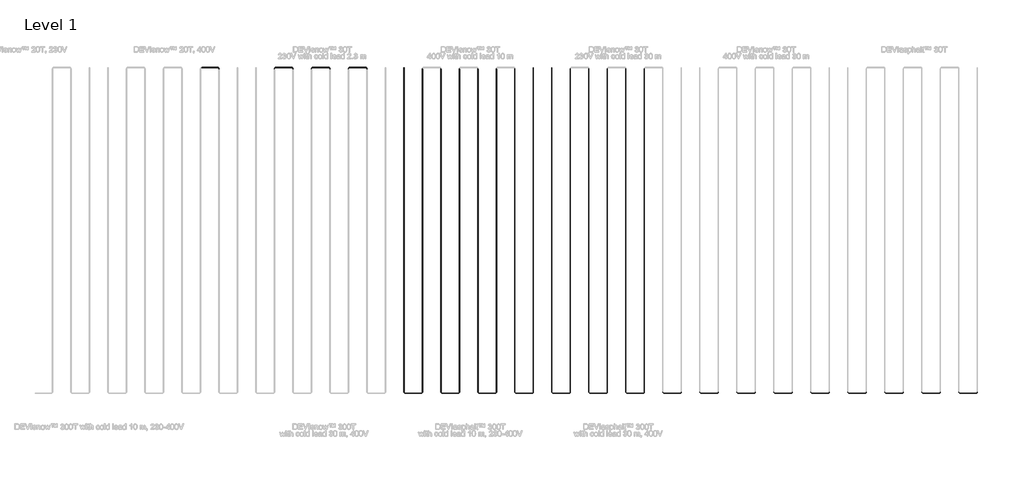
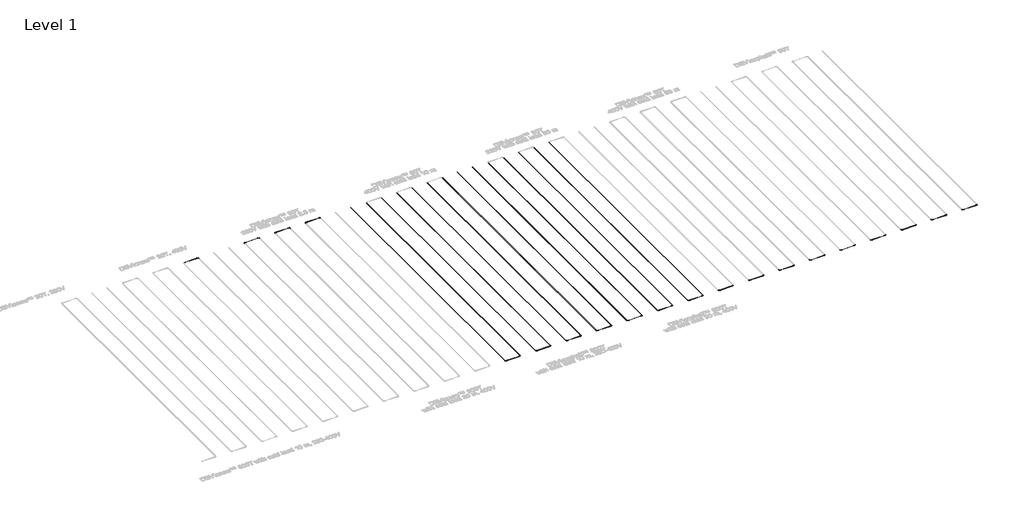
# One storey, part 6 of 26: 39 cable carrier fittings, 34 cable carrier segments.
"""IFC4 building model written with IfcOpenShell, lengths in millimetres."""

from ifc_helpers import new_model, si_unit, point, frame, frame_2d, origin, place, context, project, spatial, circle_curve, trimmed, segment, composite_curve, outline, extrude, transform, mapped, element, save
from components import cable_carrier_fitting_e4b1aeb6

model = new_model("IFC4")

# Units and contexts
model_context = context("Model", 3, world=origin())
ifc_project = project(units=[si_unit("LENGTHUNIT", "METRE", prefix="MILLI")], contexts=[model_context])

# Site, building, storey
site = spatial("IfcSite", under=ifc_project)
building = spatial("IfcBuilding", under=site)
storey = spatial("IfcBuildingStorey", under=building, Name="Level 1", Elevation=0.0)

# Cable carrier fittings
placement = place(None, origin())
cable_carrier_fitting_shape = cable_carrier_fitting_e4b1aeb6(model_context)
element("IfcCableCarrierFitting", 1, ObjectType="Danfoss Elbow : DEVIsnow™ 20T, 400V", at=placement, inside=storey, context=model_context, shape_type="MappedRepresentation", body=[
    mapped(cable_carrier_fitting_shape, transform((11412.6597555, -17938.7894079, -100.0), x_axis=(0.0, 1.0, 0.0), y_axis=(-1.0, 0.0, 0.0), z_axis=(0.0, 0.0, 1.0))),
])
element("IfcCableCarrierFitting", 2, ObjectType="Danfoss Elbow : DEVIsnow™ 30T, 230V with cold lead 2.3 m", at=placement, inside=storey, context=model_context, shape_type="MappedRepresentation", body=[
    mapped(cable_carrier_fitting_shape, transform((12912.6597555, -17938.7894079, -100.0), x_axis=(-1.0, 0.0, 0.0), y_axis=(0.0, -1.0, 0.0), z_axis=(0.0, 0.0, 1.0))),
])
element("IfcCableCarrierFitting", 3, ObjectType="Danfoss Elbow : DEVIsnow™ 30T, 230V with cold lead 2.3 m", at=placement, inside=storey, context=model_context, shape_type="MappedRepresentation", body=[
    mapped(cable_carrier_fitting_shape, transform((13412.6597555, -17938.7894079, -100.0), x_axis=(0.0, 1.0, 0.0), y_axis=(-1.0, 0.0, 0.0), z_axis=(0.0, 0.0, 1.0))),
])
element("IfcCableCarrierFitting", 4, ObjectType="Danfoss Elbow : DEVIsnow™ 30T, 230V with cold lead 2.3 m", at=placement, inside=storey, context=model_context, shape_type="MappedRepresentation", body=[
    mapped(cable_carrier_fitting_shape, transform((13912.6597555, -17938.7894079, -100.0), x_axis=(-1.0, 0.0, 0.0), y_axis=(0.0, -1.0, 0.0), z_axis=(0.0, 0.0, 1.0))),
])
element("IfcCableCarrierFitting", 5, ObjectType="Danfoss Elbow : DEVIsnow™ 30T, 230V with cold lead 2.3 m", at=placement, inside=storey, context=model_context, shape_type="MappedRepresentation", body=[
    mapped(cable_carrier_fitting_shape, transform((14412.6597555, -17938.7894079, -100.0), x_axis=(0.0, 1.0, 0.0), y_axis=(-1.0, 0.0, 0.0), z_axis=(0.0, 0.0, 1.0))),
])
element("IfcCableCarrierFitting", 6, ObjectType="Danfoss Elbow : DEVIsnow™ 30T, 230V with cold lead 2.3 m", at=placement, inside=storey, context=model_context, shape_type="MappedRepresentation", body=[
    mapped(cable_carrier_fitting_shape, transform((14912.6597555, -17938.7894079, -100.0), x_axis=(-1.0, 0.0, 0.0), y_axis=(0.0, -1.0, 0.0), z_axis=(0.0, 0.0, 1.0))),
])
element("IfcCableCarrierFitting", 7, ObjectType="Danfoss Elbow : DEVIsnow™ 30T, 230V with cold lead 2.3 m", at=placement, inside=storey, context=model_context, shape_type="MappedRepresentation", body=[
    mapped(cable_carrier_fitting_shape, transform((15412.6597555, -17938.7894079, -100.0), x_axis=(0.0, 1.0, 0.0), y_axis=(-1.0, 0.0, 0.0), z_axis=(0.0, 0.0, 1.0))),
])
element("IfcCableCarrierFitting", 8, ObjectType="Danfoss Elbow : DEVIsnow™ 30T, 400V with cold lead 10 m", at=placement, inside=storey, context=model_context, shape_type="MappedRepresentation", body=[
    mapped(cable_carrier_fitting_shape, transform((16412.6597555, -26738.7894079, -100.0), x_axis=(0.0, -1.0, 0.0), y_axis=(1.0, 0.0, 0.0), z_axis=(0.0, 0.0, 1.0))),
])
element("IfcCableCarrierFitting", 9, ObjectType="Danfoss Elbow : DEVIsnow™ 30T, 400V with cold lead 10 m", at=placement, inside=storey, context=model_context, shape_type="MappedRepresentation", body=[
    mapped(cable_carrier_fitting_shape, transform((16912.6597555, -26738.7894079, -100.0), x_axis=(1.0, 0.0, 0.0), y_axis=(0.0, 1.0, 0.0), z_axis=(0.0, 0.0, 1.0))),
])
element("IfcCableCarrierFitting", 10, ObjectType="Danfoss Elbow : DEVIsnow™ 30T, 400V with cold lead 10 m", at=placement, inside=storey, context=model_context, shape_type="MappedRepresentation", body=[
    mapped(cable_carrier_fitting_shape, transform((17412.6597555, -26738.7894079, -100.0), x_axis=(0.0, -1.0, 0.0), y_axis=(1.0, 0.0, 0.0), z_axis=(0.0, 0.0, 1.0))),
])
element("IfcCableCarrierFitting", 11, ObjectType="Danfoss Elbow : DEVIsnow™ 30T, 400V with cold lead 10 m", at=placement, inside=storey, context=model_context, shape_type="MappedRepresentation", body=[
    mapped(cable_carrier_fitting_shape, transform((17912.6597555, -26738.7894079, -100.0), x_axis=(1.0, 0.0, 0.0), y_axis=(0.0, 1.0, 0.0), z_axis=(0.0, 0.0, 1.0))),
])
element("IfcCableCarrierFitting", 12, ObjectType="Danfoss Elbow : DEVIsnow™ 30T, 400V with cold lead 10 m", at=placement, inside=storey, context=model_context, shape_type="MappedRepresentation", body=[
    mapped(cable_carrier_fitting_shape, transform((18412.6597555, -26738.7894079, -100.0), x_axis=(0.0, -1.0, 0.0), y_axis=(1.0, 0.0, 0.0), z_axis=(0.0, 0.0, 1.0))),
])
element("IfcCableCarrierFitting", 13, ObjectType="Danfoss Elbow : DEVIsnow™ 30T, 400V with cold lead 10 m", at=placement, inside=storey, context=model_context, shape_type="MappedRepresentation", body=[
    mapped(cable_carrier_fitting_shape, transform((18912.6597555, -26738.7894079, -100.0), x_axis=(1.0, 0.0, 0.0), y_axis=(0.0, 1.0, 0.0), z_axis=(0.0, 0.0, 1.0))),
])
element("IfcCableCarrierFitting", 14, ObjectType="Danfoss Elbow : DEVIsnow™ 30T, 400V with cold lead 10 m", at=placement, inside=storey, context=model_context, shape_type="MappedRepresentation", body=[
    mapped(cable_carrier_fitting_shape, transform((19412.6597555, -26738.7894079, -100.0), x_axis=(0.0, -1.0, 0.0), y_axis=(1.0, 0.0, 0.0), z_axis=(0.0, 0.0, 1.0))),
])
element("IfcCableCarrierFitting", 15, ObjectType="Danfoss Elbow : DEVIsnow™ 30T, 400V with cold lead 10 m", at=placement, inside=storey, context=model_context, shape_type="MappedRepresentation", body=[
    mapped(cable_carrier_fitting_shape, transform((19912.6597555, -26738.7894079, -100.0), x_axis=(1.0, 0.0, 0.0), y_axis=(0.0, 1.0, 0.0), z_axis=(0.0, 0.0, 1.0))),
])
element("IfcCableCarrierFitting", 16, ObjectType="Danfoss Elbow : DEVIsnow™ 30T, 230V with cold lead 30 m", at=placement, inside=storey, context=model_context, shape_type="MappedRepresentation", body=[
    mapped(cable_carrier_fitting_shape, transform((20412.6597555, -26738.7894079, -100.0), x_axis=(0.0, -1.0, 0.0), y_axis=(1.0, 0.0, 0.0), z_axis=(0.0, 0.0, 1.0))),
])
element("IfcCableCarrierFitting", 17, ObjectType="Danfoss Elbow : DEVIsnow™ 30T, 230V with cold lead 30 m", at=placement, inside=storey, context=model_context, shape_type="MappedRepresentation", body=[
    mapped(cable_carrier_fitting_shape, transform((20912.6597555, -26738.7894079, -100.0), x_axis=(1.0, 0.0, 0.0), y_axis=(0.0, 1.0, 0.0), z_axis=(0.0, 0.0, 1.0))),
])
element("IfcCableCarrierFitting", 18, ObjectType="Danfoss Elbow : DEVIsnow™ 30T, 230V with cold lead 30 m", at=placement, inside=storey, context=model_context, shape_type="MappedRepresentation", body=[
    mapped(cable_carrier_fitting_shape, transform((21412.6597555, -26738.7894079, -100.0), x_axis=(0.0, -1.0, 0.0), y_axis=(1.0, 0.0, 0.0), z_axis=(0.0, 0.0, 1.0))),
])
element("IfcCableCarrierFitting", 19, ObjectType="Danfoss Elbow : DEVIsnow™ 30T, 230V with cold lead 30 m", at=placement, inside=storey, context=model_context, shape_type="MappedRepresentation", body=[
    mapped(cable_carrier_fitting_shape, transform((21912.6597555, -26738.7894079, -100.0), x_axis=(1.0, 0.0, 0.0), y_axis=(0.0, 1.0, 0.0), z_axis=(0.0, 0.0, 1.0))),
])
element("IfcCableCarrierFitting", 20, ObjectType="Danfoss Elbow : DEVIsnow™ 30T, 230V with cold lead 30 m", at=placement, inside=storey, context=model_context, shape_type="MappedRepresentation", body=[
    mapped(cable_carrier_fitting_shape, transform((22412.6597555, -26738.7894079, -100.0), x_axis=(0.0, -1.0, 0.0), y_axis=(1.0, 0.0, 0.0), z_axis=(0.0, 0.0, 1.0))),
])
element("IfcCableCarrierFitting", 21, ObjectType="Danfoss Elbow : DEVIsnow™ 30T, 230V with cold lead 30 m", at=placement, inside=storey, context=model_context, shape_type="MappedRepresentation", body=[
    mapped(cable_carrier_fitting_shape, transform((22912.6597555, -26738.7894079, -100.0), x_axis=(1.0, 0.0, 0.0), y_axis=(0.0, 1.0, 0.0), z_axis=(0.0, 0.0, 1.0))),
])
element("IfcCableCarrierFitting", 22, ObjectType="Danfoss Elbow : DEVIsnow™ 30T, 230V with cold lead 30 m", at=placement, inside=storey, context=model_context, shape_type="MappedRepresentation", body=[
    mapped(cable_carrier_fitting_shape, transform((23412.6597555, -26738.7894079, -100.0), x_axis=(0.0, -1.0, 0.0), y_axis=(1.0, 0.0, 0.0), z_axis=(0.0, 0.0, 1.0))),
])
element("IfcCableCarrierFitting", 23, ObjectType="Danfoss Elbow : DEVIsnow™ 30T, 230V with cold lead 30 m", at=placement, inside=storey, context=model_context, shape_type="MappedRepresentation", body=[
    mapped(cable_carrier_fitting_shape, transform((23912.6597555, -26738.7894079, -100.0), x_axis=(1.0, 0.0, 0.0), y_axis=(0.0, 1.0, 0.0), z_axis=(0.0, 0.0, 1.0))),
])
element("IfcCableCarrierFitting", 24, ObjectType="Danfoss Elbow : DEVIsnow™ 30T, 400V with cold lead 30 m", at=placement, inside=storey, context=model_context, shape_type="MappedRepresentation", body=[
    mapped(cable_carrier_fitting_shape, transform((24412.6597555, -26738.7894079, -100.0), x_axis=(0.0, -1.0, 0.0), y_axis=(1.0, 0.0, 0.0), z_axis=(0.0, 0.0, 1.0))),
])
element("IfcCableCarrierFitting", 25, ObjectType="Danfoss Elbow : DEVIsnow™ 30T, 400V with cold lead 30 m", at=placement, inside=storey, context=model_context, shape_type="MappedRepresentation", body=[
    mapped(cable_carrier_fitting_shape, transform((24912.6597555, -26738.7894079, -100.0), x_axis=(1.0, 0.0, 0.0), y_axis=(0.0, 1.0, 0.0), z_axis=(0.0, 0.0, 1.0))),
])
element("IfcCableCarrierFitting", 26, ObjectType="Danfoss Elbow : DEVIsnow™ 30T, 400V with cold lead 30 m", at=placement, inside=storey, context=model_context, shape_type="MappedRepresentation", body=[
    mapped(cable_carrier_fitting_shape, transform((25412.6597555, -26738.7894079, -100.0), x_axis=(0.0, -1.0, 0.0), y_axis=(1.0, 0.0, 0.0), z_axis=(0.0, 0.0, 1.0))),
])
element("IfcCableCarrierFitting", 27, ObjectType="Danfoss Elbow : DEVIsnow™ 30T, 400V with cold lead 30 m", at=placement, inside=storey, context=model_context, shape_type="MappedRepresentation", body=[
    mapped(cable_carrier_fitting_shape, transform((25912.6597555, -26738.7894079, -100.0), x_axis=(1.0, 0.0, 0.0), y_axis=(0.0, 1.0, 0.0), z_axis=(0.0, 0.0, 1.0))),
])
element("IfcCableCarrierFitting", 28, ObjectType="Danfoss Elbow : DEVIsnow™ 30T, 400V with cold lead 30 m", at=placement, inside=storey, context=model_context, shape_type="MappedRepresentation", body=[
    mapped(cable_carrier_fitting_shape, transform((26412.6597555, -26738.7894079, -100.0), x_axis=(0.0, -1.0, 0.0), y_axis=(1.0, 0.0, 0.0), z_axis=(0.0, 0.0, 1.0))),
])
element("IfcCableCarrierFitting", 29, ObjectType="Danfoss Elbow : DEVIsnow™ 30T, 400V with cold lead 30 m", at=placement, inside=storey, context=model_context, shape_type="MappedRepresentation", body=[
    mapped(cable_carrier_fitting_shape, transform((26912.6597555, -26738.7894079, -100.0), x_axis=(1.0, 0.0, 0.0), y_axis=(0.0, 1.0, 0.0), z_axis=(0.0, 0.0, 1.0))),
])
element("IfcCableCarrierFitting", 30, ObjectType="Danfoss Elbow : DEVIsnow™ 30T, 400V with cold lead 30 m", at=placement, inside=storey, context=model_context, shape_type="MappedRepresentation", body=[
    mapped(cable_carrier_fitting_shape, transform((27412.6597555, -26738.7894079, -100.0), x_axis=(0.0, -1.0, 0.0), y_axis=(1.0, 0.0, 0.0), z_axis=(0.0, 0.0, 1.0))),
])
element("IfcCableCarrierFitting", 31, ObjectType="Danfoss Elbow : DEVIsnow™ 30T, 400V with cold lead 30 m", at=placement, inside=storey, context=model_context, shape_type="MappedRepresentation", body=[
    mapped(cable_carrier_fitting_shape, transform((27912.6597555, -26738.7894079, -100.0), x_axis=(1.0, 0.0, 0.0), y_axis=(0.0, 1.0, 0.0), z_axis=(0.0, 0.0, 1.0))),
])
element("IfcCableCarrierFitting", 32, ObjectType="Danfoss Elbow : DEVIasphalt™ 30T", at=placement, inside=storey, context=model_context, shape_type="MappedRepresentation", body=[
    mapped(cable_carrier_fitting_shape, transform((28412.6597555, -26738.7894079, -100.0), x_axis=(0.0, -1.0, 0.0), y_axis=(1.0, 0.0, 0.0), z_axis=(0.0, 0.0, 1.0))),
])
element("IfcCableCarrierFitting", 33, ObjectType="Danfoss Elbow : DEVIasphalt™ 30T", at=placement, inside=storey, context=model_context, shape_type="MappedRepresentation", body=[
    mapped(cable_carrier_fitting_shape, transform((28912.6597555, -26738.7894079, -100.0), x_axis=(1.0, 0.0, 0.0), y_axis=(0.0, 1.0, 0.0), z_axis=(0.0, 0.0, 1.0))),
])
element("IfcCableCarrierFitting", 34, ObjectType="Danfoss Elbow : DEVIasphalt™ 30T", at=placement, inside=storey, context=model_context, shape_type="MappedRepresentation", body=[
    mapped(cable_carrier_fitting_shape, transform((29412.6597555, -26738.7894079, -100.0), x_axis=(0.0, -1.0, 0.0), y_axis=(1.0, 0.0, 0.0), z_axis=(0.0, 0.0, 1.0))),
])
element("IfcCableCarrierFitting", 35, ObjectType="Danfoss Elbow : DEVIasphalt™ 30T", at=placement, inside=storey, context=model_context, shape_type="MappedRepresentation", body=[
    mapped(cable_carrier_fitting_shape, transform((29912.6597555, -26738.7894079, -100.0), x_axis=(1.0, 0.0, 0.0), y_axis=(0.0, 1.0, 0.0), z_axis=(0.0, 0.0, 1.0))),
])
element("IfcCableCarrierFitting", 36, ObjectType="Danfoss Elbow : DEVIasphalt™ 30T", at=placement, inside=storey, context=model_context, shape_type="MappedRepresentation", body=[
    mapped(cable_carrier_fitting_shape, transform((30412.6597555, -26738.7894079, -100.0), x_axis=(0.0, -1.0, 0.0), y_axis=(1.0, 0.0, 0.0), z_axis=(0.0, 0.0, 1.0))),
])
element("IfcCableCarrierFitting", 37, ObjectType="Danfoss Elbow : DEVIasphalt™ 30T", at=placement, inside=storey, context=model_context, shape_type="MappedRepresentation", body=[
    mapped(cable_carrier_fitting_shape, transform((30912.6597555, -26738.7894079, -100.0), x_axis=(1.0, 0.0, 0.0), y_axis=(0.0, 1.0, 0.0), z_axis=(0.0, 0.0, 1.0))),
])
element("IfcCableCarrierFitting", 38, ObjectType="Danfoss Elbow : DEVIasphalt™ 30T", at=placement, inside=storey, context=model_context, shape_type="MappedRepresentation", body=[
    mapped(cable_carrier_fitting_shape, transform((31412.6597555, -26738.7894079, -100.0), x_axis=(0.0, -1.0, 0.0), y_axis=(1.0, 0.0, 0.0), z_axis=(0.0, 0.0, 1.0))),
])
element("IfcCableCarrierFitting", 39, ObjectType="Danfoss Elbow : DEVIasphalt™ 30T", at=placement, inside=storey, context=model_context, shape_type="MappedRepresentation", body=[
    mapped(cable_carrier_fitting_shape, transform((31912.6597555, -26738.7894079, -100.0), x_axis=(1.0, 0.0, 0.0), y_axis=(0.0, 1.0, 0.0), z_axis=(0.0, 0.0, 1.0))),
])

# Cable carrier segments
element("IfcCableCarrierSegment", 40, ObjectType="DEVIsnow™ 20T, 400V", at=placement, inside=storey, context=model_context, shape_type="SweptSolid", body=[
    extrude(outline(composite_curve([segment(trimmed(circle_curve(frame_2d((-17938.7894079, -100.0)), 3.45), [point((-17942.2394079, -100.0))], [point((-17938.7894079, -96.55))], False, "CARTESIAN"), True, "CONTINUOUS"), segment(trimmed(circle_curve(frame_2d((-17938.7894079, -100.0)), 3.45), [point((-17938.7894079, -96.55))], [point((-17935.3394079, -100.0))], False, "CARTESIAN"), True, "CONTINUOUS"), segment(trimmed(circle_curve(frame_2d((-17938.7894079, -100.0)), 3.45), [point((-17935.3394079, -100.0))], [point((-17938.7894079, -103.45))], False, "CARTESIAN"), True, "CONTINUOUS"), segment(trimmed(circle_curve(frame_2d((-17938.7894079, -100.0)), 3.45), [point((-17938.7894079, -103.45))], [point((-17942.2394079, -100.0))], False, "CARTESIAN"), True, "CONTINUOUS")], self_intersect=False)), frame((10947.6597555, 0.0, 0.0), z_axis=(1.0, 0.0, 0.0), x_axis=(0.0, 1.0, 0.0)), (0.0, 0.0, 1.0), 430.0),
])
element("IfcCableCarrierSegment", 41, ObjectType="DEVIsnow™ 30T, 230V with cold lead 2.3 m", at=placement, inside=storey, context=model_context, shape_type="SweptSolid", body=[
    extrude(outline(composite_curve([segment(trimmed(circle_curve(frame_2d((-17938.7894079, -100.0)), 3.45), [point((-17942.2394079, -100.0))], [point((-17938.7894079, -96.55))], False, "CARTESIAN"), True, "CONTINUOUS"), segment(trimmed(circle_curve(frame_2d((-17938.7894079, -100.0)), 3.45), [point((-17938.7894079, -96.55))], [point((-17935.3394079, -100.0))], False, "CARTESIAN"), True, "CONTINUOUS"), segment(trimmed(circle_curve(frame_2d((-17938.7894079, -100.0)), 3.45), [point((-17935.3394079, -100.0))], [point((-17938.7894079, -103.45))], False, "CARTESIAN"), True, "CONTINUOUS"), segment(trimmed(circle_curve(frame_2d((-17938.7894079, -100.0)), 3.45), [point((-17938.7894079, -103.45))], [point((-17942.2394079, -100.0))], False, "CARTESIAN"), True, "CONTINUOUS")], self_intersect=False)), frame((12947.6597555, 0.0, 0.0), z_axis=(1.0, 0.0, 0.0), x_axis=(0.0, 1.0, 0.0)), (0.0, 0.0, 1.0), 430.0),
])
element("IfcCableCarrierSegment", 42, ObjectType="DEVIsnow™ 30T, 230V with cold lead 2.3 m", at=placement, inside=storey, context=model_context, shape_type="SweptSolid", body=[
    extrude(outline(composite_curve([segment(trimmed(circle_curve(frame_2d((-17938.7894079, -100.0)), 3.45), [point((-17942.2394079, -100.0))], [point((-17938.7894079, -96.55))], False, "CARTESIAN"), True, "CONTINUOUS"), segment(trimmed(circle_curve(frame_2d((-17938.7894079, -100.0)), 3.45), [point((-17938.7894079, -96.55))], [point((-17935.3394079, -100.0))], False, "CARTESIAN"), True, "CONTINUOUS"), segment(trimmed(circle_curve(frame_2d((-17938.7894079, -100.0)), 3.45), [point((-17935.3394079, -100.0))], [point((-17938.7894079, -103.45))], False, "CARTESIAN"), True, "CONTINUOUS"), segment(trimmed(circle_curve(frame_2d((-17938.7894079, -100.0)), 3.45), [point((-17938.7894079, -103.45))], [point((-17942.2394079, -100.0))], False, "CARTESIAN"), True, "CONTINUOUS")], self_intersect=False)), frame((13947.6597555, 0.0, 0.0), z_axis=(1.0, 0.0, 0.0), x_axis=(0.0, 1.0, 0.0)), (0.0, 0.0, 1.0), 430.0),
])
element("IfcCableCarrierSegment", 43, ObjectType="DEVIsnow™ 30T, 230V with cold lead 2.3 m", at=placement, inside=storey, context=model_context, shape_type="SweptSolid", body=[
    extrude(outline(composite_curve([segment(trimmed(circle_curve(frame_2d((-17938.7894079, -100.0)), 3.45), [point((-17942.2394079, -100.0))], [point((-17938.7894079, -96.55))], False, "CARTESIAN"), True, "CONTINUOUS"), segment(trimmed(circle_curve(frame_2d((-17938.7894079, -100.0)), 3.45), [point((-17938.7894079, -96.55))], [point((-17935.3394079, -100.0))], False, "CARTESIAN"), True, "CONTINUOUS"), segment(trimmed(circle_curve(frame_2d((-17938.7894079, -100.0)), 3.45), [point((-17935.3394079, -100.0))], [point((-17938.7894079, -103.45))], False, "CARTESIAN"), True, "CONTINUOUS"), segment(trimmed(circle_curve(frame_2d((-17938.7894079, -100.0)), 3.45), [point((-17938.7894079, -103.45))], [point((-17942.2394079, -100.0))], False, "CARTESIAN"), True, "CONTINUOUS")], self_intersect=False)), frame((14947.6597555, 0.0, 0.0), z_axis=(1.0, 0.0, 0.0), x_axis=(0.0, 1.0, 0.0)), (0.0, 0.0, 1.0), 430.0),
])
element("IfcCableCarrierSegment", 44, ObjectType="DEVIsnow™ 30T, 400V with cold lead 10 m", at=placement, inside=storey, context=model_context, shape_type="SweptSolid", body=[
    extrude(outline(composite_curve([segment(trimmed(circle_curve(frame_2d((-100.0, 16412.6597555)), 3.45), [point((-100.0, 16409.2097555))], [point((-103.45, 16412.6597555))], False, "CARTESIAN"), True, "CONTINUOUS"), segment(trimmed(circle_curve(frame_2d((-100.0, 16412.6597555)), 3.45), [point((-103.45, 16412.6597555))], [point((-100.0, 16416.1097555))], False, "CARTESIAN"), True, "CONTINUOUS"), segment(trimmed(circle_curve(frame_2d((-100.0, 16412.6597555)), 3.45), [point((-100.0, 16416.1097555))], [point((-96.55, 16412.6597555))], False, "CARTESIAN"), True, "CONTINUOUS"), segment(trimmed(circle_curve(frame_2d((-100.0, 16412.6597555)), 3.45), [point((-96.55, 16412.6597555))], [point((-100.0, 16409.2097555))], False, "CARTESIAN"), True, "CONTINUOUS")], self_intersect=False)), frame((0.0, -26703.7894079, 0.0), z_axis=(0.0, 1.0, 0.0), x_axis=(0.0, 0.0, 1.0)), (0.0, 0.0, 1.0), 8765.0),
])
element("IfcCableCarrierSegment", 45, ObjectType="DEVIsnow™ 30T, 400V with cold lead 10 m", at=placement, inside=storey, context=model_context, shape_type="SweptSolid", body=[
    extrude(outline(composite_curve([segment(trimmed(circle_curve(frame_2d((-26738.7894079, -100.0)), 3.45), [point((-26742.2394079, -100.0))], [point((-26738.7894079, -96.55))], False, "CARTESIAN"), True, "CONTINUOUS"), segment(trimmed(circle_curve(frame_2d((-26738.7894079, -100.0)), 3.45), [point((-26738.7894079, -96.55))], [point((-26735.3394079, -100.0))], False, "CARTESIAN"), True, "CONTINUOUS"), segment(trimmed(circle_curve(frame_2d((-26738.7894079, -100.0)), 3.45), [point((-26735.3394079, -100.0))], [point((-26738.7894079, -103.45))], False, "CARTESIAN"), True, "CONTINUOUS"), segment(trimmed(circle_curve(frame_2d((-26738.7894079, -100.0)), 3.45), [point((-26738.7894079, -103.45))], [point((-26742.2394079, -100.0))], False, "CARTESIAN"), True, "CONTINUOUS")], self_intersect=False)), frame((16447.6597555, 0.0, 0.0), z_axis=(1.0, 0.0, 0.0), x_axis=(0.0, 1.0, 0.0)), (0.0, 0.0, 1.0), 430.0),
])
element("IfcCableCarrierSegment", 46, ObjectType="DEVIsnow™ 30T, 400V with cold lead 10 m", at=placement, inside=storey, context=model_context, shape_type="SweptSolid", body=[
    extrude(outline(composite_curve([segment(trimmed(circle_curve(frame_2d((-100.0, 16912.6597555)), 3.45), [point((-100.0, 16916.1097555))], [point((-96.55, 16912.6597555))], False, "CARTESIAN"), True, "CONTINUOUS"), segment(trimmed(circle_curve(frame_2d((-100.0, 16912.6597555)), 3.45), [point((-96.55, 16912.6597555))], [point((-100.0, 16909.2097555))], False, "CARTESIAN"), True, "CONTINUOUS"), segment(trimmed(circle_curve(frame_2d((-100.0, 16912.6597555)), 3.45), [point((-100.0, 16909.2097555))], [point((-103.45, 16912.6597555))], False, "CARTESIAN"), True, "CONTINUOUS"), segment(trimmed(circle_curve(frame_2d((-100.0, 16912.6597555)), 3.45), [point((-103.45, 16912.6597555))], [point((-100.0, 16916.1097555))], False, "CARTESIAN"), True, "CONTINUOUS")], self_intersect=False)), frame((0.0, -26703.7894079, 0.0), z_axis=(0.0, 1.0, 0.0), x_axis=(0.0, 0.0, 1.0)), (0.0, 0.0, 1.0), 8730.0),
])
element("IfcCableCarrierSegment", 47, ObjectType="DEVIsnow™ 30T, 400V with cold lead 10 m", at=placement, inside=storey, context=model_context, shape_type="SweptSolid", body=[
    extrude(outline(composite_curve([segment(trimmed(circle_curve(frame_2d((-100.0, 17412.6597555)), 3.45), [point((-100.0, 17409.2097555))], [point((-103.45, 17412.6597555))], False, "CARTESIAN"), True, "CONTINUOUS"), segment(trimmed(circle_curve(frame_2d((-100.0, 17412.6597555)), 3.45), [point((-103.45, 17412.6597555))], [point((-100.0, 17416.1097555))], False, "CARTESIAN"), True, "CONTINUOUS"), segment(trimmed(circle_curve(frame_2d((-100.0, 17412.6597555)), 3.45), [point((-100.0, 17416.1097555))], [point((-96.55, 17412.6597555))], False, "CARTESIAN"), True, "CONTINUOUS"), segment(trimmed(circle_curve(frame_2d((-100.0, 17412.6597555)), 3.45), [point((-96.55, 17412.6597555))], [point((-100.0, 17409.2097555))], False, "CARTESIAN"), True, "CONTINUOUS")], self_intersect=False)), frame((0.0, -26703.7894079, 0.0), z_axis=(0.0, 1.0, 0.0), x_axis=(0.0, 0.0, 1.0)), (0.0, 0.0, 1.0), 8730.0),
])
element("IfcCableCarrierSegment", 48, ObjectType="DEVIsnow™ 30T, 400V with cold lead 10 m", at=placement, inside=storey, context=model_context, shape_type="SweptSolid", body=[
    extrude(outline(composite_curve([segment(trimmed(circle_curve(frame_2d((-26738.7894079, -100.0)), 3.45), [point((-26742.2394079, -100.0))], [point((-26738.7894079, -96.55))], False, "CARTESIAN"), True, "CONTINUOUS"), segment(trimmed(circle_curve(frame_2d((-26738.7894079, -100.0)), 3.45), [point((-26738.7894079, -96.55))], [point((-26735.3394079, -100.0))], False, "CARTESIAN"), True, "CONTINUOUS"), segment(trimmed(circle_curve(frame_2d((-26738.7894079, -100.0)), 3.45), [point((-26735.3394079, -100.0))], [point((-26738.7894079, -103.45))], False, "CARTESIAN"), True, "CONTINUOUS"), segment(trimmed(circle_curve(frame_2d((-26738.7894079, -100.0)), 3.45), [point((-26738.7894079, -103.45))], [point((-26742.2394079, -100.0))], False, "CARTESIAN"), True, "CONTINUOUS")], self_intersect=False)), frame((17447.6597555, 0.0, 0.0), z_axis=(1.0, 0.0, 0.0), x_axis=(0.0, 1.0, 0.0)), (0.0, 0.0, 1.0), 430.0),
])
element("IfcCableCarrierSegment", 49, ObjectType="DEVIsnow™ 30T, 400V with cold lead 10 m", at=placement, inside=storey, context=model_context, shape_type="SweptSolid", body=[
    extrude(outline(composite_curve([segment(trimmed(circle_curve(frame_2d((-100.0, 17912.6597555)), 3.45), [point((-100.0, 17916.1097555))], [point((-96.55, 17912.6597555))], False, "CARTESIAN"), True, "CONTINUOUS"), segment(trimmed(circle_curve(frame_2d((-100.0, 17912.6597555)), 3.45), [point((-96.55, 17912.6597555))], [point((-100.0, 17909.2097555))], False, "CARTESIAN"), True, "CONTINUOUS"), segment(trimmed(circle_curve(frame_2d((-100.0, 17912.6597555)), 3.45), [point((-100.0, 17909.2097555))], [point((-103.45, 17912.6597555))], False, "CARTESIAN"), True, "CONTINUOUS"), segment(trimmed(circle_curve(frame_2d((-100.0, 17912.6597555)), 3.45), [point((-103.45, 17912.6597555))], [point((-100.0, 17916.1097555))], False, "CARTESIAN"), True, "CONTINUOUS")], self_intersect=False)), frame((0.0, -26703.7894079, 0.0), z_axis=(0.0, 1.0, 0.0), x_axis=(0.0, 0.0, 1.0)), (0.0, 0.0, 1.0), 8730.0),
])
element("IfcCableCarrierSegment", 50, ObjectType="DEVIsnow™ 30T, 400V with cold lead 10 m", at=placement, inside=storey, context=model_context, shape_type="SweptSolid", body=[
    extrude(outline(composite_curve([segment(trimmed(circle_curve(frame_2d((-100.0, 18412.6597555)), 3.45), [point((-100.0, 18409.2097555))], [point((-103.45, 18412.6597555))], False, "CARTESIAN"), True, "CONTINUOUS"), segment(trimmed(circle_curve(frame_2d((-100.0, 18412.6597555)), 3.45), [point((-103.45, 18412.6597555))], [point((-100.0, 18416.1097555))], False, "CARTESIAN"), True, "CONTINUOUS"), segment(trimmed(circle_curve(frame_2d((-100.0, 18412.6597555)), 3.45), [point((-100.0, 18416.1097555))], [point((-96.55, 18412.6597555))], False, "CARTESIAN"), True, "CONTINUOUS"), segment(trimmed(circle_curve(frame_2d((-100.0, 18412.6597555)), 3.45), [point((-96.55, 18412.6597555))], [point((-100.0, 18409.2097555))], False, "CARTESIAN"), True, "CONTINUOUS")], self_intersect=False)), frame((0.0, -26703.7894079, 0.0), z_axis=(0.0, 1.0, 0.0), x_axis=(0.0, 0.0, 1.0)), (0.0, 0.0, 1.0), 8730.0),
])
element("IfcCableCarrierSegment", 51, ObjectType="DEVIsnow™ 30T, 400V with cold lead 10 m", at=placement, inside=storey, context=model_context, shape_type="SweptSolid", body=[
    extrude(outline(composite_curve([segment(trimmed(circle_curve(frame_2d((-26738.7894079, -100.0)), 3.45), [point((-26742.2394079, -100.0))], [point((-26738.7894079, -96.55))], False, "CARTESIAN"), True, "CONTINUOUS"), segment(trimmed(circle_curve(frame_2d((-26738.7894079, -100.0)), 3.45), [point((-26738.7894079, -96.55))], [point((-26735.3394079, -100.0))], False, "CARTESIAN"), True, "CONTINUOUS"), segment(trimmed(circle_curve(frame_2d((-26738.7894079, -100.0)), 3.45), [point((-26735.3394079, -100.0))], [point((-26738.7894079, -103.45))], False, "CARTESIAN"), True, "CONTINUOUS"), segment(trimmed(circle_curve(frame_2d((-26738.7894079, -100.0)), 3.45), [point((-26738.7894079, -103.45))], [point((-26742.2394079, -100.0))], False, "CARTESIAN"), True, "CONTINUOUS")], self_intersect=False)), frame((18447.6597555, 0.0, 0.0), z_axis=(1.0, 0.0, 0.0), x_axis=(0.0, 1.0, 0.0)), (0.0, 0.0, 1.0), 430.0),
])
element("IfcCableCarrierSegment", 52, ObjectType="DEVIsnow™ 30T, 400V with cold lead 10 m", at=placement, inside=storey, context=model_context, shape_type="SweptSolid", body=[
    extrude(outline(composite_curve([segment(trimmed(circle_curve(frame_2d((-100.0, 18912.6597555)), 3.45), [point((-100.0, 18916.1097555))], [point((-96.55, 18912.6597555))], False, "CARTESIAN"), True, "CONTINUOUS"), segment(trimmed(circle_curve(frame_2d((-100.0, 18912.6597555)), 3.45), [point((-96.55, 18912.6597555))], [point((-100.0, 18909.2097555))], False, "CARTESIAN"), True, "CONTINUOUS"), segment(trimmed(circle_curve(frame_2d((-100.0, 18912.6597555)), 3.45), [point((-100.0, 18909.2097555))], [point((-103.45, 18912.6597555))], False, "CARTESIAN"), True, "CONTINUOUS"), segment(trimmed(circle_curve(frame_2d((-100.0, 18912.6597555)), 3.45), [point((-103.45, 18912.6597555))], [point((-100.0, 18916.1097555))], False, "CARTESIAN"), True, "CONTINUOUS")], self_intersect=False)), frame((0.0, -26703.7894079, 0.0), z_axis=(0.0, 1.0, 0.0), x_axis=(0.0, 0.0, 1.0)), (0.0, 0.0, 1.0), 8730.0),
])
element("IfcCableCarrierSegment", 53, ObjectType="DEVIsnow™ 30T, 400V with cold lead 10 m", at=placement, inside=storey, context=model_context, shape_type="SweptSolid", body=[
    extrude(outline(composite_curve([segment(trimmed(circle_curve(frame_2d((-100.0, 19412.6597555)), 3.45), [point((-100.0, 19409.2097555))], [point((-103.45, 19412.6597555))], False, "CARTESIAN"), True, "CONTINUOUS"), segment(trimmed(circle_curve(frame_2d((-100.0, 19412.6597555)), 3.45), [point((-103.45, 19412.6597555))], [point((-100.0, 19416.1097555))], False, "CARTESIAN"), True, "CONTINUOUS"), segment(trimmed(circle_curve(frame_2d((-100.0, 19412.6597555)), 3.45), [point((-100.0, 19416.1097555))], [point((-96.55, 19412.6597555))], False, "CARTESIAN"), True, "CONTINUOUS"), segment(trimmed(circle_curve(frame_2d((-100.0, 19412.6597555)), 3.45), [point((-96.55, 19412.6597555))], [point((-100.0, 19409.2097555))], False, "CARTESIAN"), True, "CONTINUOUS")], self_intersect=False)), frame((0.0, -26703.7894079, 0.0), z_axis=(0.0, 1.0, 0.0), x_axis=(0.0, 0.0, 1.0)), (0.0, 0.0, 1.0), 8730.0),
])
element("IfcCableCarrierSegment", 54, ObjectType="DEVIsnow™ 30T, 400V with cold lead 10 m", at=placement, inside=storey, context=model_context, shape_type="SweptSolid", body=[
    extrude(outline(composite_curve([segment(trimmed(circle_curve(frame_2d((-26738.7894079, -100.0)), 3.45), [point((-26742.2394079, -100.0))], [point((-26738.7894079, -96.55))], False, "CARTESIAN"), True, "CONTINUOUS"), segment(trimmed(circle_curve(frame_2d((-26738.7894079, -100.0)), 3.45), [point((-26738.7894079, -96.55))], [point((-26735.3394079, -100.0))], False, "CARTESIAN"), True, "CONTINUOUS"), segment(trimmed(circle_curve(frame_2d((-26738.7894079, -100.0)), 3.45), [point((-26735.3394079, -100.0))], [point((-26738.7894079, -103.45))], False, "CARTESIAN"), True, "CONTINUOUS"), segment(trimmed(circle_curve(frame_2d((-26738.7894079, -100.0)), 3.45), [point((-26738.7894079, -103.45))], [point((-26742.2394079, -100.0))], False, "CARTESIAN"), True, "CONTINUOUS")], self_intersect=False)), frame((19447.6597555, 0.0, 0.0), z_axis=(1.0, 0.0, 0.0), x_axis=(0.0, 1.0, 0.0)), (0.0, 0.0, 1.0), 430.0),
])
element("IfcCableCarrierSegment", 55, ObjectType="DEVIsnow™ 30T, 400V with cold lead 10 m", at=placement, inside=storey, context=model_context, shape_type="SweptSolid", body=[
    extrude(outline(composite_curve([segment(trimmed(circle_curve(frame_2d((-100.0, 19912.6597555)), 3.45), [point((-100.0, 19916.1097555))], [point((-96.55, 19912.6597555))], False, "CARTESIAN"), True, "CONTINUOUS"), segment(trimmed(circle_curve(frame_2d((-100.0, 19912.6597555)), 3.45), [point((-96.55, 19912.6597555))], [point((-100.0, 19909.2097555))], False, "CARTESIAN"), True, "CONTINUOUS"), segment(trimmed(circle_curve(frame_2d((-100.0, 19912.6597555)), 3.45), [point((-100.0, 19909.2097555))], [point((-103.45, 19912.6597555))], False, "CARTESIAN"), True, "CONTINUOUS"), segment(trimmed(circle_curve(frame_2d((-100.0, 19912.6597555)), 3.45), [point((-103.45, 19912.6597555))], [point((-100.0, 19916.1097555))], False, "CARTESIAN"), True, "CONTINUOUS")], self_intersect=False)), frame((0.0, -26703.7894079, 0.0), z_axis=(0.0, 1.0, 0.0), x_axis=(0.0, 0.0, 1.0)), (0.0, 0.0, 1.0), 8765.0),
])
element("IfcCableCarrierSegment", 56, ObjectType="DEVIsnow™ 30T, 230V with cold lead 30 m", at=placement, inside=storey, context=model_context, shape_type="SweptSolid", body=[
    extrude(outline(composite_curve([segment(trimmed(circle_curve(frame_2d((-100.0, 20412.6597555)), 3.45), [point((-100.0, 20409.2097555))], [point((-103.45, 20412.6597555))], False, "CARTESIAN"), True, "CONTINUOUS"), segment(trimmed(circle_curve(frame_2d((-100.0, 20412.6597555)), 3.45), [point((-103.45, 20412.6597555))], [point((-100.0, 20416.1097555))], False, "CARTESIAN"), True, "CONTINUOUS"), segment(trimmed(circle_curve(frame_2d((-100.0, 20412.6597555)), 3.45), [point((-100.0, 20416.1097555))], [point((-96.55, 20412.6597555))], False, "CARTESIAN"), True, "CONTINUOUS"), segment(trimmed(circle_curve(frame_2d((-100.0, 20412.6597555)), 3.45), [point((-96.55, 20412.6597555))], [point((-100.0, 20409.2097555))], False, "CARTESIAN"), True, "CONTINUOUS")], self_intersect=False)), frame((0.0, -26703.7894079, 0.0), z_axis=(0.0, 1.0, 0.0), x_axis=(0.0, 0.0, 1.0)), (0.0, 0.0, 1.0), 8765.0),
])
element("IfcCableCarrierSegment", 57, ObjectType="DEVIsnow™ 30T, 230V with cold lead 30 m", at=placement, inside=storey, context=model_context, shape_type="SweptSolid", body=[
    extrude(outline(composite_curve([segment(trimmed(circle_curve(frame_2d((-26738.7894079, -100.0)), 3.45), [point((-26742.2394079, -100.0))], [point((-26738.7894079, -96.55))], False, "CARTESIAN"), True, "CONTINUOUS"), segment(trimmed(circle_curve(frame_2d((-26738.7894079, -100.0)), 3.45), [point((-26738.7894079, -96.55))], [point((-26735.3394079, -100.0))], False, "CARTESIAN"), True, "CONTINUOUS"), segment(trimmed(circle_curve(frame_2d((-26738.7894079, -100.0)), 3.45), [point((-26735.3394079, -100.0))], [point((-26738.7894079, -103.45))], False, "CARTESIAN"), True, "CONTINUOUS"), segment(trimmed(circle_curve(frame_2d((-26738.7894079, -100.0)), 3.45), [point((-26738.7894079, -103.45))], [point((-26742.2394079, -100.0))], False, "CARTESIAN"), True, "CONTINUOUS")], self_intersect=False)), frame((20447.6597555, 0.0, 0.0), z_axis=(1.0, 0.0, 0.0), x_axis=(0.0, 1.0, 0.0)), (0.0, 0.0, 1.0), 430.0),
])
element("IfcCableCarrierSegment", 58, ObjectType="DEVIsnow™ 30T, 230V with cold lead 30 m", at=placement, inside=storey, context=model_context, shape_type="SweptSolid", body=[
    extrude(outline(composite_curve([segment(trimmed(circle_curve(frame_2d((-100.0, 20912.6597555)), 3.45), [point((-100.0, 20916.1097555))], [point((-96.55, 20912.6597555))], False, "CARTESIAN"), True, "CONTINUOUS"), segment(trimmed(circle_curve(frame_2d((-100.0, 20912.6597555)), 3.45), [point((-96.55, 20912.6597555))], [point((-100.0, 20909.2097555))], False, "CARTESIAN"), True, "CONTINUOUS"), segment(trimmed(circle_curve(frame_2d((-100.0, 20912.6597555)), 3.45), [point((-100.0, 20909.2097555))], [point((-103.45, 20912.6597555))], False, "CARTESIAN"), True, "CONTINUOUS"), segment(trimmed(circle_curve(frame_2d((-100.0, 20912.6597555)), 3.45), [point((-103.45, 20912.6597555))], [point((-100.0, 20916.1097555))], False, "CARTESIAN"), True, "CONTINUOUS")], self_intersect=False)), frame((0.0, -26703.7894079, 0.0), z_axis=(0.0, 1.0, 0.0), x_axis=(0.0, 0.0, 1.0)), (0.0, 0.0, 1.0), 8730.0),
])
element("IfcCableCarrierSegment", 59, ObjectType="DEVIsnow™ 30T, 230V with cold lead 30 m", at=placement, inside=storey, context=model_context, shape_type="SweptSolid", body=[
    extrude(outline(composite_curve([segment(trimmed(circle_curve(frame_2d((-100.0, 21412.6597555)), 3.45), [point((-100.0, 21409.2097555))], [point((-103.45, 21412.6597555))], False, "CARTESIAN"), True, "CONTINUOUS"), segment(trimmed(circle_curve(frame_2d((-100.0, 21412.6597555)), 3.45), [point((-103.45, 21412.6597555))], [point((-100.0, 21416.1097555))], False, "CARTESIAN"), True, "CONTINUOUS"), segment(trimmed(circle_curve(frame_2d((-100.0, 21412.6597555)), 3.45), [point((-100.0, 21416.1097555))], [point((-96.55, 21412.6597555))], False, "CARTESIAN"), True, "CONTINUOUS"), segment(trimmed(circle_curve(frame_2d((-100.0, 21412.6597555)), 3.45), [point((-96.55, 21412.6597555))], [point((-100.0, 21409.2097555))], False, "CARTESIAN"), True, "CONTINUOUS")], self_intersect=False)), frame((0.0, -26703.7894079, 0.0), z_axis=(0.0, 1.0, 0.0), x_axis=(0.0, 0.0, 1.0)), (0.0, 0.0, 1.0), 8730.0),
])
element("IfcCableCarrierSegment", 60, ObjectType="DEVIsnow™ 30T, 230V with cold lead 30 m", at=placement, inside=storey, context=model_context, shape_type="SweptSolid", body=[
    extrude(outline(composite_curve([segment(trimmed(circle_curve(frame_2d((-26738.7894079, -100.0)), 3.45), [point((-26742.2394079, -100.0))], [point((-26738.7894079, -96.55))], False, "CARTESIAN"), True, "CONTINUOUS"), segment(trimmed(circle_curve(frame_2d((-26738.7894079, -100.0)), 3.45), [point((-26738.7894079, -96.55))], [point((-26735.3394079, -100.0))], False, "CARTESIAN"), True, "CONTINUOUS"), segment(trimmed(circle_curve(frame_2d((-26738.7894079, -100.0)), 3.45), [point((-26735.3394079, -100.0))], [point((-26738.7894079, -103.45))], False, "CARTESIAN"), True, "CONTINUOUS"), segment(trimmed(circle_curve(frame_2d((-26738.7894079, -100.0)), 3.45), [point((-26738.7894079, -103.45))], [point((-26742.2394079, -100.0))], False, "CARTESIAN"), True, "CONTINUOUS")], self_intersect=False)), frame((21447.6597555, 0.0, 0.0), z_axis=(1.0, 0.0, 0.0), x_axis=(0.0, 1.0, 0.0)), (0.0, 0.0, 1.0), 430.0),
])
element("IfcCableCarrierSegment", 61, ObjectType="DEVIsnow™ 30T, 230V with cold lead 30 m", at=placement, inside=storey, context=model_context, shape_type="SweptSolid", body=[
    extrude(outline(composite_curve([segment(trimmed(circle_curve(frame_2d((-100.0, 21912.6597555)), 3.45), [point((-100.0, 21916.1097555))], [point((-96.55, 21912.6597555))], False, "CARTESIAN"), True, "CONTINUOUS"), segment(trimmed(circle_curve(frame_2d((-100.0, 21912.6597555)), 3.45), [point((-96.55, 21912.6597555))], [point((-100.0, 21909.2097555))], False, "CARTESIAN"), True, "CONTINUOUS"), segment(trimmed(circle_curve(frame_2d((-100.0, 21912.6597555)), 3.45), [point((-100.0, 21909.2097555))], [point((-103.45, 21912.6597555))], False, "CARTESIAN"), True, "CONTINUOUS"), segment(trimmed(circle_curve(frame_2d((-100.0, 21912.6597555)), 3.45), [point((-103.45, 21912.6597555))], [point((-100.0, 21916.1097555))], False, "CARTESIAN"), True, "CONTINUOUS")], self_intersect=False)), frame((0.0, -26703.7894079, 0.0), z_axis=(0.0, 1.0, 0.0), x_axis=(0.0, 0.0, 1.0)), (0.0, 0.0, 1.0), 8730.0),
])
element("IfcCableCarrierSegment", 62, ObjectType="DEVIsnow™ 30T, 230V with cold lead 30 m", at=placement, inside=storey, context=model_context, shape_type="SweptSolid", body=[
    extrude(outline(composite_curve([segment(trimmed(circle_curve(frame_2d((-100.0, 22412.6597555)), 3.45), [point((-100.0, 22409.2097555))], [point((-103.45, 22412.6597555))], False, "CARTESIAN"), True, "CONTINUOUS"), segment(trimmed(circle_curve(frame_2d((-100.0, 22412.6597555)), 3.45), [point((-103.45, 22412.6597555))], [point((-100.0, 22416.1097555))], False, "CARTESIAN"), True, "CONTINUOUS"), segment(trimmed(circle_curve(frame_2d((-100.0, 22412.6597555)), 3.45), [point((-100.0, 22416.1097555))], [point((-96.55, 22412.6597555))], False, "CARTESIAN"), True, "CONTINUOUS"), segment(trimmed(circle_curve(frame_2d((-100.0, 22412.6597555)), 3.45), [point((-96.55, 22412.6597555))], [point((-100.0, 22409.2097555))], False, "CARTESIAN"), True, "CONTINUOUS")], self_intersect=False)), frame((0.0, -26703.7894079, 0.0), z_axis=(0.0, 1.0, 0.0), x_axis=(0.0, 0.0, 1.0)), (0.0, 0.0, 1.0), 8730.0),
])
element("IfcCableCarrierSegment", 63, ObjectType="DEVIsnow™ 30T, 230V with cold lead 30 m", at=placement, inside=storey, context=model_context, shape_type="SweptSolid", body=[
    extrude(outline(composite_curve([segment(trimmed(circle_curve(frame_2d((-26738.7894079, -100.0)), 3.45), [point((-26742.2394079, -100.0))], [point((-26738.7894079, -96.55))], False, "CARTESIAN"), True, "CONTINUOUS"), segment(trimmed(circle_curve(frame_2d((-26738.7894079, -100.0)), 3.45), [point((-26738.7894079, -96.55))], [point((-26735.3394079, -100.0))], False, "CARTESIAN"), True, "CONTINUOUS"), segment(trimmed(circle_curve(frame_2d((-26738.7894079, -100.0)), 3.45), [point((-26735.3394079, -100.0))], [point((-26738.7894079, -103.45))], False, "CARTESIAN"), True, "CONTINUOUS"), segment(trimmed(circle_curve(frame_2d((-26738.7894079, -100.0)), 3.45), [point((-26738.7894079, -103.45))], [point((-26742.2394079, -100.0))], False, "CARTESIAN"), True, "CONTINUOUS")], self_intersect=False)), frame((22447.6597555, 0.0, 0.0), z_axis=(1.0, 0.0, 0.0), x_axis=(0.0, 1.0, 0.0)), (0.0, 0.0, 1.0), 430.0),
])
element("IfcCableCarrierSegment", 64, ObjectType="DEVIsnow™ 30T, 230V with cold lead 30 m", at=placement, inside=storey, context=model_context, shape_type="SweptSolid", body=[
    extrude(outline(composite_curve([segment(trimmed(circle_curve(frame_2d((-100.0, 22912.6597555)), 3.45), [point((-100.0, 22916.1097555))], [point((-96.55, 22912.6597555))], False, "CARTESIAN"), True, "CONTINUOUS"), segment(trimmed(circle_curve(frame_2d((-100.0, 22912.6597555)), 3.45), [point((-96.55, 22912.6597555))], [point((-100.0, 22909.2097555))], False, "CARTESIAN"), True, "CONTINUOUS"), segment(trimmed(circle_curve(frame_2d((-100.0, 22912.6597555)), 3.45), [point((-100.0, 22909.2097555))], [point((-103.45, 22912.6597555))], False, "CARTESIAN"), True, "CONTINUOUS"), segment(trimmed(circle_curve(frame_2d((-100.0, 22912.6597555)), 3.45), [point((-103.45, 22912.6597555))], [point((-100.0, 22916.1097555))], False, "CARTESIAN"), True, "CONTINUOUS")], self_intersect=False)), frame((0.0, -26703.7894079, 0.0), z_axis=(0.0, 1.0, 0.0), x_axis=(0.0, 0.0, 1.0)), (0.0, 0.0, 1.0), 8730.0),
])
element("IfcCableCarrierSegment", 65, ObjectType="DEVIsnow™ 30T, 230V with cold lead 30 m", at=placement, inside=storey, context=model_context, shape_type="SweptSolid", body=[
    extrude(outline(composite_curve([segment(trimmed(circle_curve(frame_2d((-26738.7894079, -100.0)), 3.45), [point((-26742.2394079, -100.0))], [point((-26738.7894079, -96.55))], False, "CARTESIAN"), True, "CONTINUOUS"), segment(trimmed(circle_curve(frame_2d((-26738.7894079, -100.0)), 3.45), [point((-26738.7894079, -96.55))], [point((-26735.3394079, -100.0))], False, "CARTESIAN"), True, "CONTINUOUS"), segment(trimmed(circle_curve(frame_2d((-26738.7894079, -100.0)), 3.45), [point((-26735.3394079, -100.0))], [point((-26738.7894079, -103.45))], False, "CARTESIAN"), True, "CONTINUOUS"), segment(trimmed(circle_curve(frame_2d((-26738.7894079, -100.0)), 3.45), [point((-26738.7894079, -103.45))], [point((-26742.2394079, -100.0))], False, "CARTESIAN"), True, "CONTINUOUS")], self_intersect=False)), frame((23447.6597555, 0.0, 0.0), z_axis=(1.0, 0.0, 0.0), x_axis=(0.0, 1.0, 0.0)), (0.0, 0.0, 1.0), 430.0),
])
element("IfcCableCarrierSegment", 66, ObjectType="DEVIsnow™ 30T, 400V with cold lead 30 m", at=placement, inside=storey, context=model_context, shape_type="SweptSolid", body=[
    extrude(outline(composite_curve([segment(trimmed(circle_curve(frame_2d((-26738.7894079, -100.0)), 3.45), [point((-26742.2394079, -100.0))], [point((-26738.7894079, -96.55))], False, "CARTESIAN"), True, "CONTINUOUS"), segment(trimmed(circle_curve(frame_2d((-26738.7894079, -100.0)), 3.45), [point((-26738.7894079, -96.55))], [point((-26735.3394079, -100.0))], False, "CARTESIAN"), True, "CONTINUOUS"), segment(trimmed(circle_curve(frame_2d((-26738.7894079, -100.0)), 3.45), [point((-26735.3394079, -100.0))], [point((-26738.7894079, -103.45))], False, "CARTESIAN"), True, "CONTINUOUS"), segment(trimmed(circle_curve(frame_2d((-26738.7894079, -100.0)), 3.45), [point((-26738.7894079, -103.45))], [point((-26742.2394079, -100.0))], False, "CARTESIAN"), True, "CONTINUOUS")], self_intersect=False)), frame((24447.6597555, 0.0, 0.0), z_axis=(1.0, 0.0, 0.0), x_axis=(0.0, 1.0, 0.0)), (0.0, 0.0, 1.0), 430.0),
])
element("IfcCableCarrierSegment", 67, ObjectType="DEVIsnow™ 30T, 400V with cold lead 30 m", at=placement, inside=storey, context=model_context, shape_type="SweptSolid", body=[
    extrude(outline(composite_curve([segment(trimmed(circle_curve(frame_2d((-26738.7894079, -100.0)), 3.45), [point((-26742.2394079, -100.0))], [point((-26738.7894079, -96.55))], False, "CARTESIAN"), True, "CONTINUOUS"), segment(trimmed(circle_curve(frame_2d((-26738.7894079, -100.0)), 3.45), [point((-26738.7894079, -96.55))], [point((-26735.3394079, -100.0))], False, "CARTESIAN"), True, "CONTINUOUS"), segment(trimmed(circle_curve(frame_2d((-26738.7894079, -100.0)), 3.45), [point((-26735.3394079, -100.0))], [point((-26738.7894079, -103.45))], False, "CARTESIAN"), True, "CONTINUOUS"), segment(trimmed(circle_curve(frame_2d((-26738.7894079, -100.0)), 3.45), [point((-26738.7894079, -103.45))], [point((-26742.2394079, -100.0))], False, "CARTESIAN"), True, "CONTINUOUS")], self_intersect=False)), frame((25447.6597555, 0.0, 0.0), z_axis=(1.0, 0.0, 0.0), x_axis=(0.0, 1.0, 0.0)), (0.0, 0.0, 1.0), 430.0),
])
element("IfcCableCarrierSegment", 68, ObjectType="DEVIsnow™ 30T, 400V with cold lead 30 m", at=placement, inside=storey, context=model_context, shape_type="SweptSolid", body=[
    extrude(outline(composite_curve([segment(trimmed(circle_curve(frame_2d((-26738.7894079, -100.0)), 3.45), [point((-26742.2394079, -100.0))], [point((-26738.7894079, -96.55))], False, "CARTESIAN"), True, "CONTINUOUS"), segment(trimmed(circle_curve(frame_2d((-26738.7894079, -100.0)), 3.45), [point((-26738.7894079, -96.55))], [point((-26735.3394079, -100.0))], False, "CARTESIAN"), True, "CONTINUOUS"), segment(trimmed(circle_curve(frame_2d((-26738.7894079, -100.0)), 3.45), [point((-26735.3394079, -100.0))], [point((-26738.7894079, -103.45))], False, "CARTESIAN"), True, "CONTINUOUS"), segment(trimmed(circle_curve(frame_2d((-26738.7894079, -100.0)), 3.45), [point((-26738.7894079, -103.45))], [point((-26742.2394079, -100.0))], False, "CARTESIAN"), True, "CONTINUOUS")], self_intersect=False)), frame((26447.6597555, 0.0, 0.0), z_axis=(1.0, 0.0, 0.0), x_axis=(0.0, 1.0, 0.0)), (0.0, 0.0, 1.0), 430.0),
])
element("IfcCableCarrierSegment", 69, ObjectType="DEVIsnow™ 30T, 400V with cold lead 30 m", at=placement, inside=storey, context=model_context, shape_type="SweptSolid", body=[
    extrude(outline(composite_curve([segment(trimmed(circle_curve(frame_2d((-26738.7894079, -100.0)), 3.45), [point((-26742.2394079, -100.0))], [point((-26738.7894079, -96.55))], False, "CARTESIAN"), True, "CONTINUOUS"), segment(trimmed(circle_curve(frame_2d((-26738.7894079, -100.0)), 3.45), [point((-26738.7894079, -96.55))], [point((-26735.3394079, -100.0))], False, "CARTESIAN"), True, "CONTINUOUS"), segment(trimmed(circle_curve(frame_2d((-26738.7894079, -100.0)), 3.45), [point((-26735.3394079, -100.0))], [point((-26738.7894079, -103.45))], False, "CARTESIAN"), True, "CONTINUOUS"), segment(trimmed(circle_curve(frame_2d((-26738.7894079, -100.0)), 3.45), [point((-26738.7894079, -103.45))], [point((-26742.2394079, -100.0))], False, "CARTESIAN"), True, "CONTINUOUS")], self_intersect=False)), frame((27447.6597555, 0.0, 0.0), z_axis=(1.0, 0.0, 0.0), x_axis=(0.0, 1.0, 0.0)), (0.0, 0.0, 1.0), 430.0),
])
element("IfcCableCarrierSegment", 70, ObjectType="DEVIasphalt™ 30T", at=placement, inside=storey, context=model_context, shape_type="SweptSolid", body=[
    extrude(outline(composite_curve([segment(trimmed(circle_curve(frame_2d((-26738.7894079, -100.0)), 3.45), [point((-26742.2394079, -100.0))], [point((-26738.7894079, -96.55))], False, "CARTESIAN"), True, "CONTINUOUS"), segment(trimmed(circle_curve(frame_2d((-26738.7894079, -100.0)), 3.45), [point((-26738.7894079, -96.55))], [point((-26735.3394079, -100.0))], False, "CARTESIAN"), True, "CONTINUOUS"), segment(trimmed(circle_curve(frame_2d((-26738.7894079, -100.0)), 3.45), [point((-26735.3394079, -100.0))], [point((-26738.7894079, -103.45))], False, "CARTESIAN"), True, "CONTINUOUS"), segment(trimmed(circle_curve(frame_2d((-26738.7894079, -100.0)), 3.45), [point((-26738.7894079, -103.45))], [point((-26742.2394079, -100.0))], False, "CARTESIAN"), True, "CONTINUOUS")], self_intersect=False)), frame((28447.6597555, 0.0, 0.0), z_axis=(1.0, 0.0, 0.0), x_axis=(0.0, 1.0, 0.0)), (0.0, 0.0, 1.0), 430.0),
])
element("IfcCableCarrierSegment", 71, ObjectType="DEVIasphalt™ 30T", at=placement, inside=storey, context=model_context, shape_type="SweptSolid", body=[
    extrude(outline(composite_curve([segment(trimmed(circle_curve(frame_2d((-26738.7894079, -100.0)), 3.45), [point((-26742.2394079, -100.0))], [point((-26738.7894079, -96.55))], False, "CARTESIAN"), True, "CONTINUOUS"), segment(trimmed(circle_curve(frame_2d((-26738.7894079, -100.0)), 3.45), [point((-26738.7894079, -96.55))], [point((-26735.3394079, -100.0))], False, "CARTESIAN"), True, "CONTINUOUS"), segment(trimmed(circle_curve(frame_2d((-26738.7894079, -100.0)), 3.45), [point((-26735.3394079, -100.0))], [point((-26738.7894079, -103.45))], False, "CARTESIAN"), True, "CONTINUOUS"), segment(trimmed(circle_curve(frame_2d((-26738.7894079, -100.0)), 3.45), [point((-26738.7894079, -103.45))], [point((-26742.2394079, -100.0))], False, "CARTESIAN"), True, "CONTINUOUS")], self_intersect=False)), frame((29447.6597555, 0.0, 0.0), z_axis=(1.0, 0.0, 0.0), x_axis=(0.0, 1.0, 0.0)), (0.0, 0.0, 1.0), 430.0),
])
element("IfcCableCarrierSegment", 72, ObjectType="DEVIasphalt™ 30T", at=placement, inside=storey, context=model_context, shape_type="SweptSolid", body=[
    extrude(outline(composite_curve([segment(trimmed(circle_curve(frame_2d((-26738.7894079, -100.0)), 3.45), [point((-26742.2394079, -100.0))], [point((-26738.7894079, -96.55))], False, "CARTESIAN"), True, "CONTINUOUS"), segment(trimmed(circle_curve(frame_2d((-26738.7894079, -100.0)), 3.45), [point((-26738.7894079, -96.55))], [point((-26735.3394079, -100.0))], False, "CARTESIAN"), True, "CONTINUOUS"), segment(trimmed(circle_curve(frame_2d((-26738.7894079, -100.0)), 3.45), [point((-26735.3394079, -100.0))], [point((-26738.7894079, -103.45))], False, "CARTESIAN"), True, "CONTINUOUS"), segment(trimmed(circle_curve(frame_2d((-26738.7894079, -100.0)), 3.45), [point((-26738.7894079, -103.45))], [point((-26742.2394079, -100.0))], False, "CARTESIAN"), True, "CONTINUOUS")], self_intersect=False)), frame((30447.6597555, 0.0, 0.0), z_axis=(1.0, 0.0, 0.0), x_axis=(0.0, 1.0, 0.0)), (0.0, 0.0, 1.0), 430.0),
])
element("IfcCableCarrierSegment", 73, ObjectType="DEVIasphalt™ 30T", at=placement, inside=storey, context=model_context, shape_type="SweptSolid", body=[
    extrude(outline(composite_curve([segment(trimmed(circle_curve(frame_2d((-26738.7894079, -100.0)), 3.45), [point((-26742.2394079, -100.0))], [point((-26738.7894079, -96.55))], False, "CARTESIAN"), True, "CONTINUOUS"), segment(trimmed(circle_curve(frame_2d((-26738.7894079, -100.0)), 3.45), [point((-26738.7894079, -96.55))], [point((-26735.3394079, -100.0))], False, "CARTESIAN"), True, "CONTINUOUS"), segment(trimmed(circle_curve(frame_2d((-26738.7894079, -100.0)), 3.45), [point((-26735.3394079, -100.0))], [point((-26738.7894079, -103.45))], False, "CARTESIAN"), True, "CONTINUOUS"), segment(trimmed(circle_curve(frame_2d((-26738.7894079, -100.0)), 3.45), [point((-26738.7894079, -103.45))], [point((-26742.2394079, -100.0))], False, "CARTESIAN"), True, "CONTINUOUS")], self_intersect=False)), frame((31447.6597555, 0.0, 0.0), z_axis=(1.0, 0.0, 0.0), x_axis=(0.0, 1.0, 0.0)), (0.0, 0.0, 1.0), 430.0),
])

save(model, "model.ifc")
